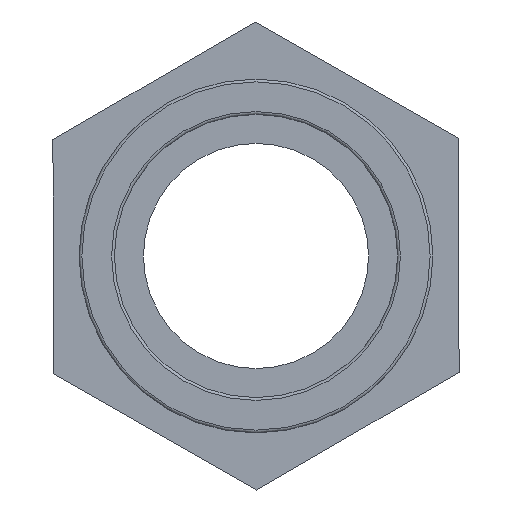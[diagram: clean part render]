
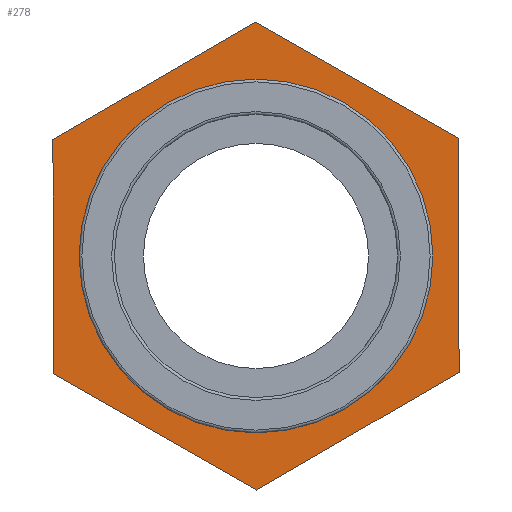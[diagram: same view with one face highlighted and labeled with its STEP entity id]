
A CAD part, left-side view. The second image highlights one B-rep face of the part: STEP entity #278.
In plain terms, the highlighted planar face has unit normal (-1, 0, 0).
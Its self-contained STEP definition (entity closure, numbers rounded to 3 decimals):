
#31=FACE_BOUND('',#98,.T.);
#43=CIRCLE('',#308,10.478);
#66=FACE_OUTER_BOUND('',#97,.T.);
#97=EDGE_LOOP('',(#242,#243,#244,#245,#246,#247));
#98=EDGE_LOOP('',(#248));
#101=LINE('',#402,#119);
#105=LINE('',#409,#123);
#108=LINE('',#415,#126);
#111=LINE('',#423,#129);
#114=LINE('',#427,#132);
#116=LINE('',#430,#134);
#119=VECTOR('',#318,13.856);
#123=VECTOR('',#324,13.856);
#126=VECTOR('',#329,13.856);
#129=VECTOR('',#334,13.856);
#132=VECTOR('',#339,13.856);
#134=VECTOR('',#343,13.856);
#137=VERTEX_POINT('',#399);
#138=VERTEX_POINT('',#401);
#140=VERTEX_POINT('',#407);
#142=VERTEX_POINT('',#413);
#145=VERTEX_POINT('',#420);
#146=VERTEX_POINT('',#422);
#158=VERTEX_POINT('',#463);
#161=EDGE_CURVE('',#137,#138,#101,.T.);
#165=EDGE_CURVE('',#140,#137,#105,.T.);
#168=EDGE_CURVE('',#142,#140,#108,.T.);
#171=EDGE_CURVE('',#145,#146,#111,.T.);
#174=EDGE_CURVE('',#138,#145,#114,.T.);
#176=EDGE_CURVE('',#146,#142,#116,.T.);
#188=EDGE_CURVE('',#158,#158,#43,.T.);
#242=ORIENTED_EDGE('',*,*,#161,.F.);
#243=ORIENTED_EDGE('',*,*,#165,.F.);
#244=ORIENTED_EDGE('',*,*,#168,.F.);
#245=ORIENTED_EDGE('',*,*,#176,.F.);
#246=ORIENTED_EDGE('',*,*,#171,.F.);
#247=ORIENTED_EDGE('',*,*,#174,.F.);
#248=ORIENTED_EDGE('',*,*,#188,.F.);
#259=PLANE('',#311);
#278=ADVANCED_FACE('',(#66,#31),#259,.T.);
#308=AXIS2_PLACEMENT_3D('',#464,#386,#387);
#311=AXIS2_PLACEMENT_3D('',#467,#392,#393);
#318=DIRECTION('',(0.,-0.004,-1.));
#324=DIRECTION('',(0.,-0.868,-0.497));
#329=DIRECTION('',(0.,-0.864,0.503));
#334=DIRECTION('',(0.,0.868,0.497));
#339=DIRECTION('',(0.,0.864,-0.503));
#343=DIRECTION('',(0.,0.004,1.));
#386=DIRECTION('center_axis',(-1.,0.,0.));
#387=DIRECTION('ref_axis',(0.,0.,1.));
#392=DIRECTION('center_axis',(-1.,0.,0.));
#393=DIRECTION('ref_axis',(0.,0.,1.));
#399=CARTESIAN_POINT('',(-8.5,-11.974,6.973));
#401=CARTESIAN_POINT('',(-8.5,-12.026,-6.883));
#402=CARTESIAN_POINT('',(-8.5,-11.974,6.973));
#407=CARTESIAN_POINT('',(-8.5,0.052,13.856));
#409=CARTESIAN_POINT('',(-8.5,0.052,13.856));
#413=CARTESIAN_POINT('',(-8.5,12.026,6.883));
#415=CARTESIAN_POINT('',(-8.5,12.026,6.883));
#420=CARTESIAN_POINT('',(-8.5,-0.052,-13.856));
#422=CARTESIAN_POINT('',(-8.5,11.974,-6.973));
#423=CARTESIAN_POINT('',(-8.5,-0.052,-13.856));
#427=CARTESIAN_POINT('',(-8.5,-12.026,-6.883));
#430=CARTESIAN_POINT('',(-8.5,11.974,-6.973));
#463=CARTESIAN_POINT('',(-8.5,-10.478,0.));
#464=CARTESIAN_POINT('Origin',(-8.5,0.,0.));
#467=CARTESIAN_POINT('Origin',(-8.5,-10.478,0.));
